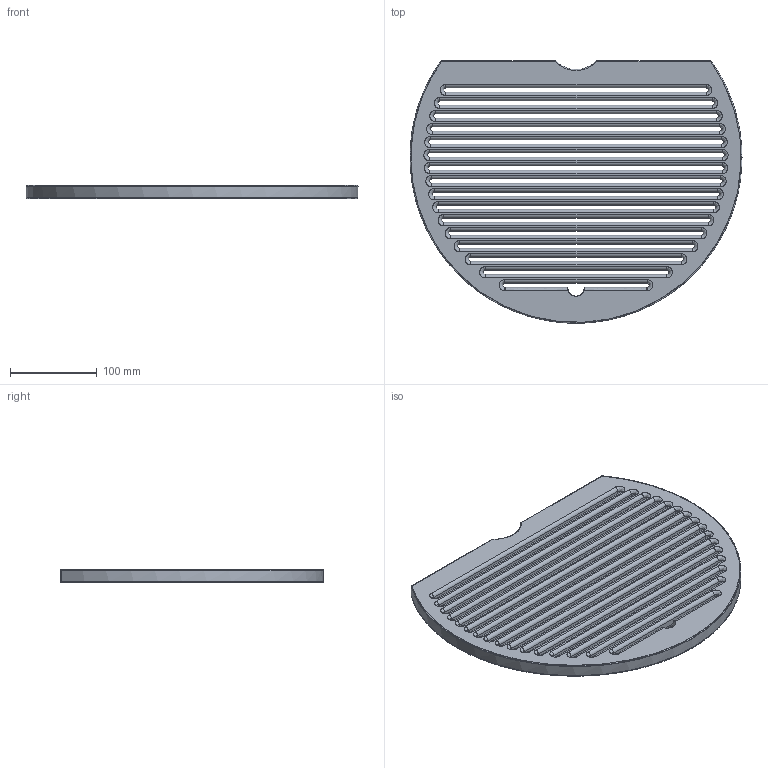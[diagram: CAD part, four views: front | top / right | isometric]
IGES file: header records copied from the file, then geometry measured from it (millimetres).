
Global section: file name: C:\Users\User\Desktop\Lavabos 3D\4124 Buelna\4124T Bandeja de bamb; native system: Rhinoceros ( Feb 26 2015 ); preprocessor: Trout Lake IGES 012 Feb 26 2015; date: 191022.050022; units: millimetre
Bounding box: 382.51 x 302.48 x 15 mm (x, y, z)
Surface area: 275179.6 mm2 (no closed solid volume)
Topology: 0 solids, 0 shells, 228 faces, 1750 edges, 1750 vertices
Faces by surface type: bspline 228
